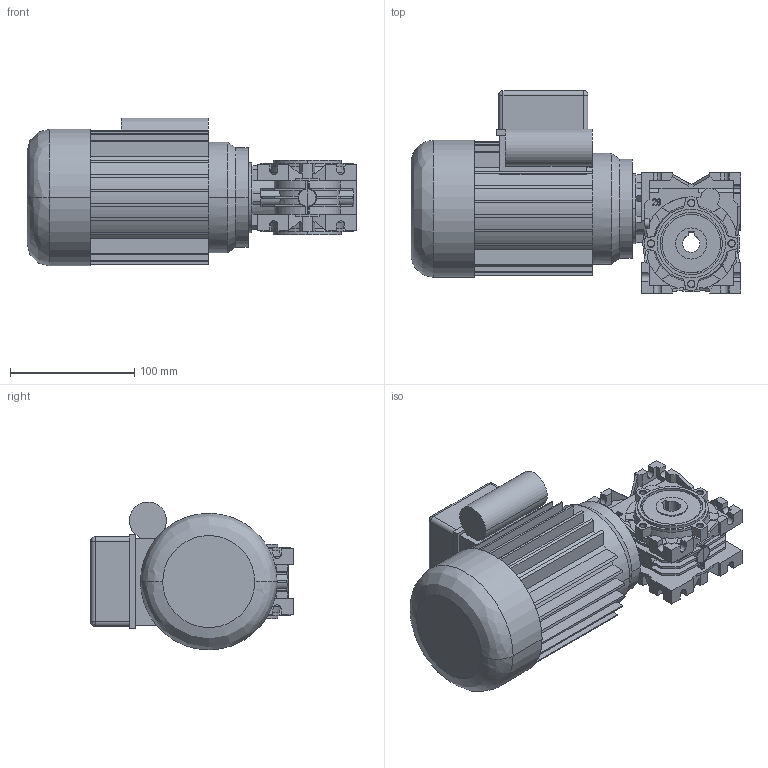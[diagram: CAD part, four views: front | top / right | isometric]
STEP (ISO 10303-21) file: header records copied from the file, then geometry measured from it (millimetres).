
FILE_DESCRIPTION (( 'STEP AP214' ), '1' );
FILE_NAME ('M56B14+RT28.STEP', '2020-03-30T14:04:26', ( '' ), ( '' ), 'SwSTEP 2.0', 'SolidWorks 2018', '' );
FILE_SCHEMA (( 'AUTOMOTIVE_DESIGN' ));
Length unit declared in the file: millimetre
Products named in the file (3): M56B14+RT28; _M_56_B_4_0,09_B14_F_230-50.3d; _F_RT_28_10_56_B14-G_AC_14__none.3d
Assembly tree (2 placements, depth 2):
  M56B14+RT28
    _F_RT_28_10_56_B14-G_AC_14__none.3d
    _M_56_B_4_0,09_B14_F_230-50.3d
Bounding box: 265.5 x 163 x 119 mm (x, y, z)
Volume: 1890035.5 mm3; surface area: 205406.4 mm2
Topology: 2 solids, 3 shells, 951 faces, 2613 edges, 1705 vertices
Faces by surface type: plane 616, cylinder 275, cone 28, torus 18, bspline 14
Entity records: 31656 total; most frequent: CARTESIAN_POINT 6596, ORIENTED_EDGE 5218, DIRECTION 5094, EDGE_CURVE 2609, VECTOR 1776, LINE 1776, VERTEX_POINT 1705, AXIS2_PLACEMENT_3D 1659
